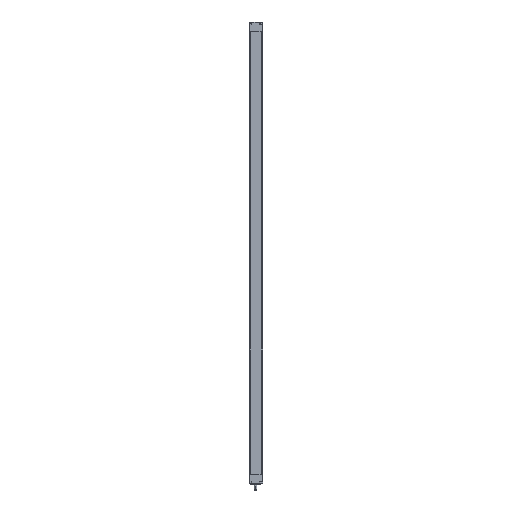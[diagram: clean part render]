
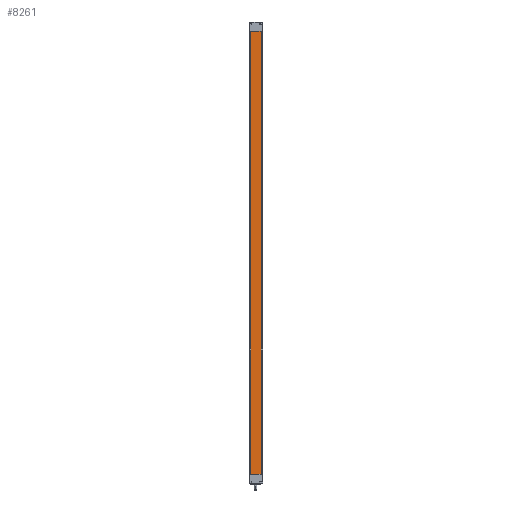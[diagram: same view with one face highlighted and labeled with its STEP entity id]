
A CAD part, left-side view. The second image highlights one B-rep face of the part: STEP entity #8261.
In plain terms, the highlighted planar face has unit normal (-1, 0, 0).
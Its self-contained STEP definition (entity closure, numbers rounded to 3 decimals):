
#39 = EDGE_CURVE ( 'NONE', #43, #56, #2836, .T. ) ;
#43 = VERTEX_POINT ( 'NONE', #2831 ) ;
#56 = VERTEX_POINT ( 'NONE', #2824 ) ;
#2489 = VERTEX_POINT ( 'NONE', #5427 ) ;
#2493 = VERTEX_POINT ( 'NONE', #5476 ) ;
#2494 = EDGE_CURVE ( 'NONE', #2489, #2493, #5463, .T. ) ;
#2824 = CARTESIAN_POINT ( 'NONE',  ( -75., -26.9, 0. ) ) ;
#2831 = CARTESIAN_POINT ( 'NONE',  ( -75., 23.2, 0. ) ) ;
#2833 = DIRECTION ( 'NONE',  ( 0., -1., 0. ) ) ;
#2834 = VECTOR ( 'NONE', #2833, 1000. ) ;
#2835 = CARTESIAN_POINT ( 'NONE',  ( -75., -36., 0. ) ) ;
#2836 = LINE ( 'NONE', #2835, #2834 ) ;
#5427 = CARTESIAN_POINT ( 'NONE',  ( -75., 23.2, 2140. ) ) ;
#5460 = DIRECTION ( 'NONE',  ( 0., -1., 0. ) ) ;
#5461 = VECTOR ( 'NONE', #5460, 1000. ) ;
#5462 = CARTESIAN_POINT ( 'NONE',  ( -75., -36., 2140. ) ) ;
#5463 = LINE ( 'NONE', #5462, #5461 ) ;
#5476 = CARTESIAN_POINT ( 'NONE',  ( -75., -26.9, 2140. ) ) ;
#6467 = LINE ( 'NONE', #6472, #6508 ) ;
#6472 = CARTESIAN_POINT ( 'NONE',  ( -75., -26.9, 2140. ) ) ;
#6483 = DIRECTION ( 'NONE',  ( 0., 0., -1. ) ) ;
#6496 = PLANE ( 'NONE',  #6511 ) ;
#6497 = LINE ( 'NONE', #6553, #6552 ) ;
#6501 = FACE_OUTER_BOUND ( 'NONE', #8266, .T. ) ;
#6506 = CARTESIAN_POINT ( 'NONE',  ( -75., -36., 2140. ) ) ;
#6507 = DIRECTION ( 'NONE',  ( 0., 0., -1. ) ) ;
#6508 = VECTOR ( 'NONE', #6483, 1000. ) ;
#6511 = AXIS2_PLACEMENT_3D ( 'NONE', #6506, #6517, #6507 ) ;
#6517 = DIRECTION ( 'NONE',  ( 1., 0., 0. ) ) ;
#6551 = DIRECTION ( 'NONE',  ( 0., 0., -1. ) ) ;
#6552 = VECTOR ( 'NONE', #6551, 1000. ) ;
#6553 = CARTESIAN_POINT ( 'NONE',  ( -75., 23.2, 2140. ) ) ;
#8221 = ORIENTED_EDGE ( 'NONE', *, *, #8257, .F. ) ;
#8257 = EDGE_CURVE ( 'NONE', #2493, #56, #6467, .T. ) ;
#8258 = ORIENTED_EDGE ( 'NONE', *, *, #8264, .T. ) ;
#8259 = ORIENTED_EDGE ( 'NONE', *, *, #2494, .F. ) ;
#8261 = ADVANCED_FACE ( 'NONE', ( #6501 ), #6496, .F. ) ;
#8264 = EDGE_CURVE ( 'NONE', #2489, #43, #6497, .T. ) ;
#8266 = EDGE_LOOP ( 'NONE', ( #8221, #8259, #8258, #8287 ) ) ;
#8287 = ORIENTED_EDGE ( 'NONE', *, *, #39, .T. ) ;
